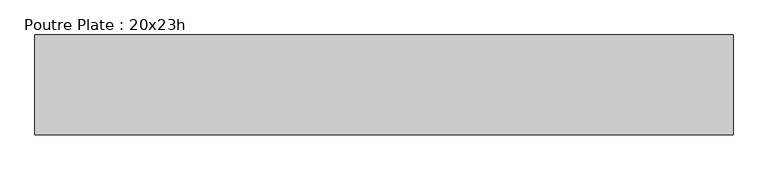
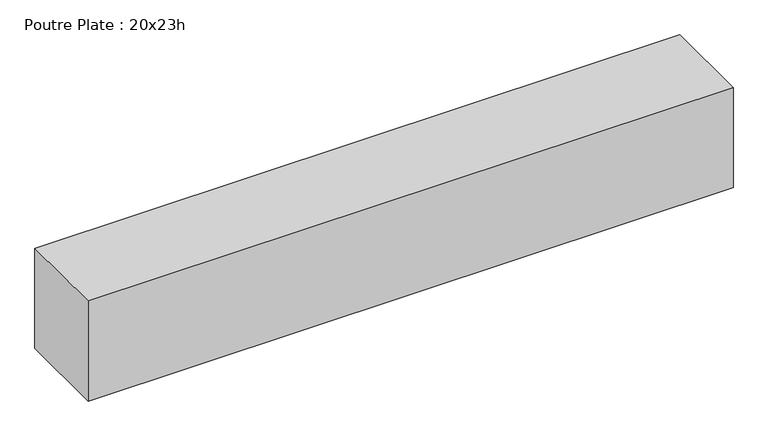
"""IFC4 building model written with IfcOpenShell, lengths in millimetres: beam geometry, Poutre Plate : 20x23h."""

from ifc_helpers import new_model, si_unit, frame, origin, place, context, project, spatial, polyline, outline, extrude, source, transform, mapped, element, save


def poutre_plate_20x23h_90cabc80(model_context):
    return source(origin(), model_context, "Body", "SweptSolid", [
        extrude(outline(polyline([(700.0, 100.0), (700.0, -100.0), (-700.2, -100.0), (-700.2, 100.0), (700.0, 100.0)])), frame((0.0, 0.0, -115.0), z_axis=(0.0, 0.0, 1.0), x_axis=(1.0, 0.0, 0.0)), (0.0, 0.0, 1.0), 230.0),
    ])


if __name__ == "__main__":
    model = new_model("IFC4")
    model_context = context("Model", 3, world=origin())
    ifc_project = project(units=[si_unit("LENGTHUNIT", "METRE", prefix="MILLI")], contexts=[model_context])
    site = spatial("IfcSite", under=ifc_project)
    building = spatial("IfcBuilding", under=site)
    placement = place(None, origin())
    poutre_plate_20x23h_shape = poutre_plate_20x23h_90cabc80(model_context)
    element("IfcBeam", 1, ObjectType="Poutre Plate : 20x23h", at=placement, inside=building, context=model_context, shape_type="MappedRepresentation", body=[
        mapped(poutre_plate_20x23h_shape, transform((0.0, 0.0, 0.0), x_axis=(1.0, 0.0, 0.0), y_axis=(0.0, 1.0, 0.0), z_axis=(0.0, 0.0, 1.0))),
    ])
    save(model, "model.ifc")
